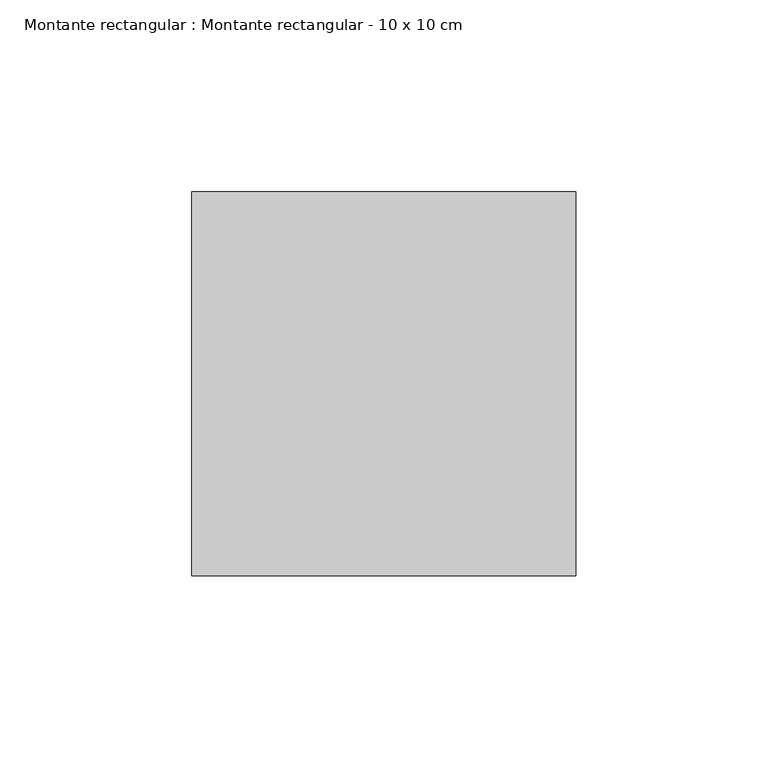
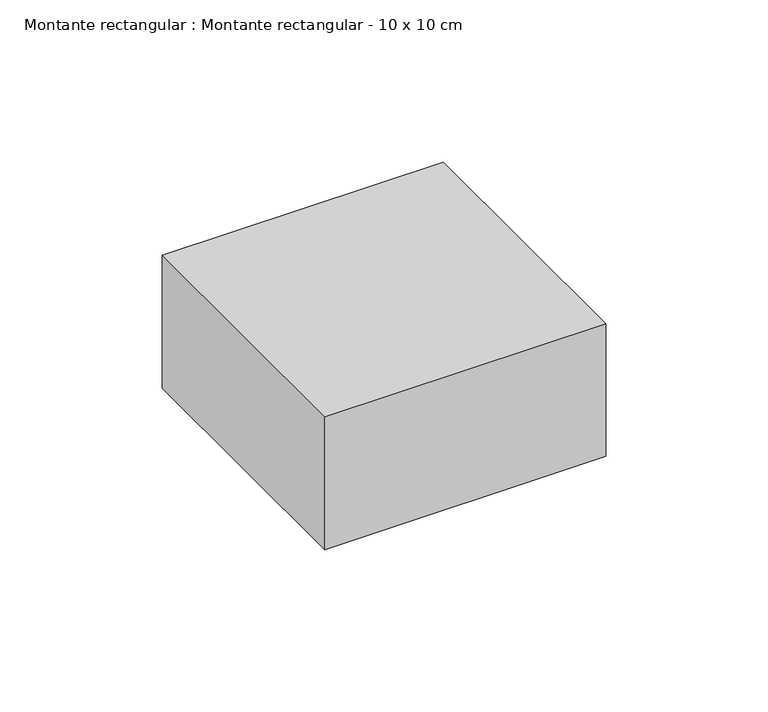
"""IFC4 building model written with IfcOpenShell, lengths in millimetres: member geometry, Montante rectangular : Montante rectangular - 10 x 10 cm."""

from ifc_helpers import new_model, si_unit, frame, origin, place, context, project, spatial, polyline, outline, extrude, source, transform, mapped, element, save


def montante_rectangular_montante_rectangular_10_x_10_cm_3a18ed24(model_context):
    return source(origin(), model_context, "Body", "SweptSolid", [
        extrude(outline(polyline([(-100.0, -50.0), (-100.0, 50.0), (0.0, 50.0), (0.0, -50.0), (-100.0, -50.0)])), frame((0.0, 0.0, -50.0), z_axis=(0.0, 0.0, 1.0), x_axis=(1.0, 0.0, 0.0)), (0.0, 0.0, 1.0), 50.0),
    ])


if __name__ == "__main__":
    model = new_model("IFC4")
    model_context = context("Model", 3, world=origin())
    ifc_project = project(units=[si_unit("LENGTHUNIT", "METRE", prefix="MILLI")], contexts=[model_context])
    site = spatial("IfcSite", under=ifc_project)
    building = spatial("IfcBuilding", under=site)
    placement = place(None, origin())
    montante_rectangular_montante_rectangular_10_x_10_cm_shape = montante_rectangular_montante_rectangular_10_x_10_cm_3a18ed24(model_context)
    element("IfcMember", 1, ObjectType="Montante rectangular : Montante rectangular - 10 x 10 cm", at=placement, inside=building, context=model_context, shape_type="MappedRepresentation", body=[
        mapped(montante_rectangular_montante_rectangular_10_x_10_cm_shape, transform((0.0, 0.0, 0.0), x_axis=(1.0, 0.0, 0.0), y_axis=(0.0, 1.0, 0.0), z_axis=(0.0, 0.0, 1.0))),
    ])
    save(model, "model.ifc")
